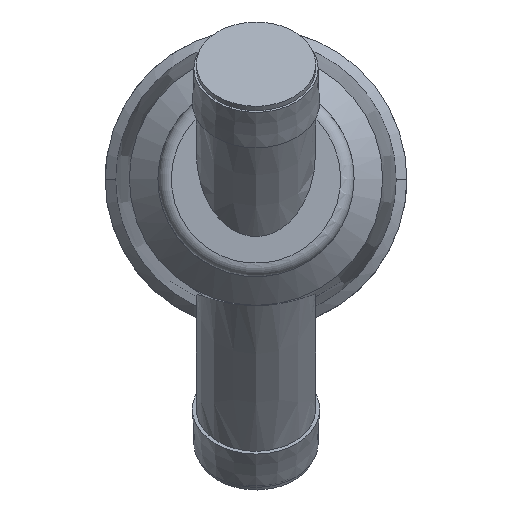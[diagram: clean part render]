
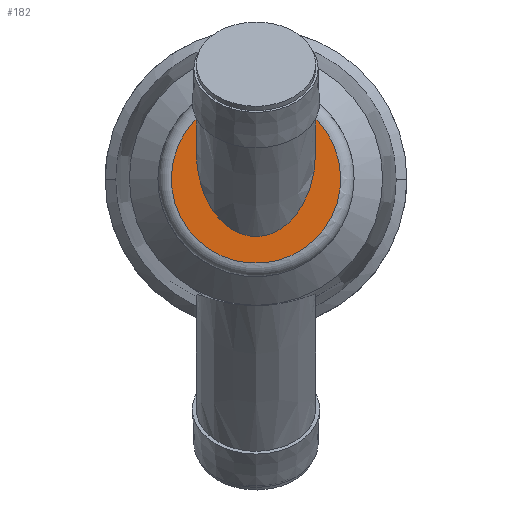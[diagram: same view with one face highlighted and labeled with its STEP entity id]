
A CAD part, top view. The second image highlights one B-rep face of the part: STEP entity #182.
In plain terms, the highlighted planar face has unit normal (0, 0, 1).
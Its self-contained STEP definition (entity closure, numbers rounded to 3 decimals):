
#182 = ADVANCED_FACE( '', ( #431 ), #432, .T. );
#431 = FACE_OUTER_BOUND( '', #1497, .T. );
#432 = PLANE( '', #1498 );
#1497 = EDGE_LOOP( '', ( #2475, #2476, #2477, #2478 ) );
#1498 = AXIS2_PLACEMENT_3D( '', #2479, #2480, #2481 );
#2475 = ORIENTED_EDGE( '', *, *, #3165, .T. );
#2476 = ORIENTED_EDGE( '', *, *, #3056, .T. );
#2477 = ORIENTED_EDGE( '', *, *, #3166, .T. );
#2478 = ORIENTED_EDGE( '', *, *, #3053, .T. );
#2479 = CARTESIAN_POINT( '', ( 31.4, 24.579, 157. ) );
#2480 = DIRECTION( '', ( 0., 0., 1. ) );
#2481 = DIRECTION( '', ( -1., 0., 0. ) );
#3053 = EDGE_CURVE( '', #3379, #3380, #3381, .T. );
#3056 = EDGE_CURVE( '', #3385, #3383, #3386, .T. );
#3165 = EDGE_CURVE( '', #3380, #3385, #3563, .T. );
#3166 = EDGE_CURVE( '', #3383, #3379, #3564, .T. );
#3379 = VERTEX_POINT( '', #4052 );
#3380 = VERTEX_POINT( '', #4053 );
#3381 = B_SPLINE_CURVE_WITH_KNOTS( '', 3, ( #4054, #4055, #4056, #4057, #4058, #4059, #4060, #4061 ), .UNSPECIFIED., .F., .F., ( 4, 2, 2, 4 ), ( 0., 0.007, 0.011, 0.015 ), .UNSPECIFIED. );
#3383 = VERTEX_POINT( '', #4064 );
#3385 = VERTEX_POINT( '', #4067 );
#3386 = B_SPLINE_CURVE_WITH_KNOTS( '', 3, ( #4068, #4069, #4070, #4071, #4072, #4073, #4074, #4075 ), .UNSPECIFIED., .F., .F., ( 4, 2, 2, 4 ), ( 0., 0.004, 0.007, 0.015 ), .UNSPECIFIED. );
#3563 = CIRCLE( '', #4861, 31.4 );
#3564 = B_SPLINE_CURVE_WITH_KNOTS( '', 3, ( #4862, #4863, #4864, #4865, #4866, #4867, #4868, #4869, #4870, #4871, #4872, #4873, #4874, #4875, #4876, #4877, #4878, #4879, #4880, #4881, #4882, #4883, #4884, #4885, #4886, #4887, #4888, #4889, #4890, #4891, #4892, #4893, #4894, #4895, #4896, #4897, #4898, #4899, #4900, #4901, #4902, #4903, #4904, #4905, #4906, #4907, #4908, #4909, #4910, #4911, #4912, #4913, #4914, #4915, #4916, #4917, #4918, #4919, #4920, #4921, #4922, #4923, #4924, #4925 ), .UNSPECIFIED., .F., .F., ( 4, 2, 2, 2, 2, 2, 2, 2, 2, 2, 2, 2, 2, 2, 2, 2, 2, 2, 2, 2, 2, 2, 2, 2, 2, 2, 2, 2, 2, 2, 2, 4 ), ( 0., 0.005, 0.01, 0.013, 0.016, 0.021, 0.024, 0.025, 0.026, 0.031, 0.033, 0.034, 0.037, 0.038, 0.039, 0.042, 0.043, 0.045, 0.047, 0.048, 0.05, 0.052, 0.055, 0.056, 0.058, 0.063, 0.065, 0.068, 0.073, 0.076, 0.079, 0.084 ), .UNSPECIFIED. );
#4052 = CARTESIAN_POINT( '', ( -22.15, 9.828, 157. ) );
#4053 = CARTESIAN_POINT( '', ( -19.528, 24.578, 157. ) );
#4054 = CARTESIAN_POINT( '', ( -22.15, 9.828, 157. ) );
#4055 = CARTESIAN_POINT( '', ( -22.15, 12.364, 157. ) );
#4056 = CARTESIAN_POINT( '', ( -21.926, 14.86, 157. ) );
#4057 = CARTESIAN_POINT( '', ( -21.274, 18.548, 157. ) );
#4058 = CARTESIAN_POINT( '', ( -21.003, 19.768, 157. ) );
#4059 = CARTESIAN_POINT( '', ( -20.349, 22.187, 157. ) );
#4060 = CARTESIAN_POINT( '', ( -19.966, 23.387, 157. ) );
#4061 = CARTESIAN_POINT( '', ( -19.52, 24.576, 157. ) );
#4064 = CARTESIAN_POINT( '', ( 22.15, 9.828, 157. ) );
#4067 = CARTESIAN_POINT( '', ( 19.528, 24.578, 157. ) );
#4068 = CARTESIAN_POINT( '', ( 19.52, 24.576, 157. ) );
#4069 = CARTESIAN_POINT( '', ( 19.967, 23.387, 157. ) );
#4070 = CARTESIAN_POINT( '', ( 20.35, 22.187, 157. ) );
#4071 = CARTESIAN_POINT( '', ( 21.003, 19.768, 157. ) );
#4072 = CARTESIAN_POINT( '', ( 21.274, 18.548, 157. ) );
#4073 = CARTESIAN_POINT( '', ( 21.926, 14.86, 157. ) );
#4074 = CARTESIAN_POINT( '', ( 22.15, 12.364, 157. ) );
#4075 = CARTESIAN_POINT( '', ( 22.15, 9.828, 157. ) );
#4861 = AXIS2_PLACEMENT_3D( '', #5775, #5776, #5777 );
#4862 = CARTESIAN_POINT( '', ( 22.15, 9.828, 157. ) );
#4863 = CARTESIAN_POINT( '', ( 22.15, 8.058, 157. ) );
#4864 = CARTESIAN_POINT( '', ( 22.04, 6.306, 157. ) );
#4865 = CARTESIAN_POINT( '', ( 21.612, 2.837, 157. ) );
#4866 = CARTESIAN_POINT( '', ( 21.295, 1.121, 157. ) );
#4867 = CARTESIAN_POINT( '', ( 20.657, -1.427, 157. ) );
#4868 = CARTESIAN_POINT( '', ( 20.417, -2.271, 157. ) );
#4869 = CARTESIAN_POINT( '', ( 19.879, -3.95, 157. ) );
#4870 = CARTESIAN_POINT( '', ( 19.58, -4.787, 157. ) );
#4871 = CARTESIAN_POINT( '', ( 18.601, -7.246, 157. ) );
#4872 = CARTESIAN_POINT( '', ( 17.839, -8.826, 157. ) );
#4873 = CARTESIAN_POINT( '', ( 16.498, -11.093, 157. ) );
#4874 = CARTESIAN_POINT( '', ( 16.018, -11.831, 157. ) );
#4875 = CARTESIAN_POINT( '', ( 15.241, -12.908, 157. ) );
#4876 = CARTESIAN_POINT( '', ( 14.971, -13.262, 157. ) );
#4877 = CARTESIAN_POINT( '', ( 14.417, -13.954, 157. ) );
#4878 = CARTESIAN_POINT( '', ( 14.132, -14.291, 157. ) );
#4879 = CARTESIAN_POINT( '', ( 12.668, -15.937, 157. ) );
#4880 = CARTESIAN_POINT( '', ( 11.371, -17.123, 157. ) );
#4881 = CARTESIAN_POINT( '', ( 9.557, -18.404, 157. ) );
#4882 = CARTESIAN_POINT( '', ( 9.185, -18.649, 157. ) );
#4883 = CARTESIAN_POINT( '', ( 8.43, -19.112, 157. ) );
#4884 = CARTESIAN_POINT( '', ( 8.046, -19.33, 157. ) );
#4885 = CARTESIAN_POINT( '', ( 6.875, -19.942, 157. ) );
#4886 = CARTESIAN_POINT( '', ( 6.069, -20.295, 157. ) );
#4887 = CARTESIAN_POINT( '', ( 4.817, -20.732, 157. ) );
#4888 = CARTESIAN_POINT( '', ( 4.39, -20.863, 157. ) );
#4889 = CARTESIAN_POINT( '', ( 3.529, -21.089, 157. ) );
#4890 = CARTESIAN_POINT( '', ( 3.097, -21.184, 157. ) );
#4891 = CARTESIAN_POINT( '', ( 1.796, -21.414, 157. ) );
#4892 = CARTESIAN_POINT( '', ( 0.924, -21.494, 157. ) );
#4893 = CARTESIAN_POINT( '', ( -0.393, -21.498, 157. ) );
#4894 = CARTESIAN_POINT( '', ( -0.834, -21.48, 157. ) );
#4895 = CARTESIAN_POINT( '', ( -1.718, -21.405, 157. ) );
#4896 = CARTESIAN_POINT( '', ( -2.163, -21.347, 157. ) );
#4897 = CARTESIAN_POINT( '', ( -3.475, -21.121, 157. ) );
#4898 = CARTESIAN_POINT( '', ( -4.33, -20.899, 157. ) );
#4899 = CARTESIAN_POINT( '', ( -5.582, -20.467, 157. ) );
#4900 = CARTESIAN_POINT( '', ( -5.995, -20.307, 157. ) );
#4901 = CARTESIAN_POINT( '', ( -6.811, -19.955, 157. ) );
#4902 = CARTESIAN_POINT( '', ( -7.215, -19.763, 157. ) );
#4903 = CARTESIAN_POINT( '', ( -8.395, -19.15, 157. ) );
#4904 = CARTESIAN_POINT( '', ( -9.146, -18.69, 157. ) );
#4905 = CARTESIAN_POINT( '', ( -10.586, -17.68, 157. ) );
#4906 = CARTESIAN_POINT( '', ( -11.275, -17.13, 157. ) );
#4907 = CARTESIAN_POINT( '', ( -12.264, -16.242, 157. ) );
#4908 = CARTESIAN_POINT( '', ( -12.587, -15.935, 157. ) );
#4909 = CARTESIAN_POINT( '', ( -13.212, -15.305, 157. ) );
#4910 = CARTESIAN_POINT( '', ( -13.515, -14.984, 157. ) );
#4911 = CARTESIAN_POINT( '', ( -14.982, -13.34, 157. ) );
#4912 = CARTESIAN_POINT( '', ( -16.007, -11.916, 157. ) );
#4913 = CARTESIAN_POINT( '', ( -17.359, -9.643, 157. ) );
#4914 = CARTESIAN_POINT( '', ( -17.78, -8.859, 157. ) );
#4915 = CARTESIAN_POINT( '', ( -18.556, -7.27, 157. ) );
#4916 = CARTESIAN_POINT( '', ( -18.911, -6.465, 157. ) );
#4917 = CARTESIAN_POINT( '', ( -19.888, -4.022, 157. ) );
#4918 = CARTESIAN_POINT( '', ( -20.421, -2.355, 157. ) );
#4919 = CARTESIAN_POINT( '', ( -21.065, 0.194, 157. ) );
#4920 = CARTESIAN_POINT( '', ( -21.253, 1.053, 157. ) );
#4921 = CARTESIAN_POINT( '', ( -21.577, 2.786, 157. ) );
#4922 = CARTESIAN_POINT( '', ( -21.713, 3.663, 157. ) );
#4923 = CARTESIAN_POINT( '', ( -22.04, 6.294, 157. ) );
#4924 = CARTESIAN_POINT( '', ( -22.15, 8.057, 157. ) );
#4925 = CARTESIAN_POINT( '', ( -22.15, 9.828, 157. ) );
#5775 = CARTESIAN_POINT( '', ( 0., 0., 157. ) );
#5776 = DIRECTION( '', ( 0., 0., 1. ) );
#5777 = DIRECTION( '', ( 0., 1., 0. ) );
